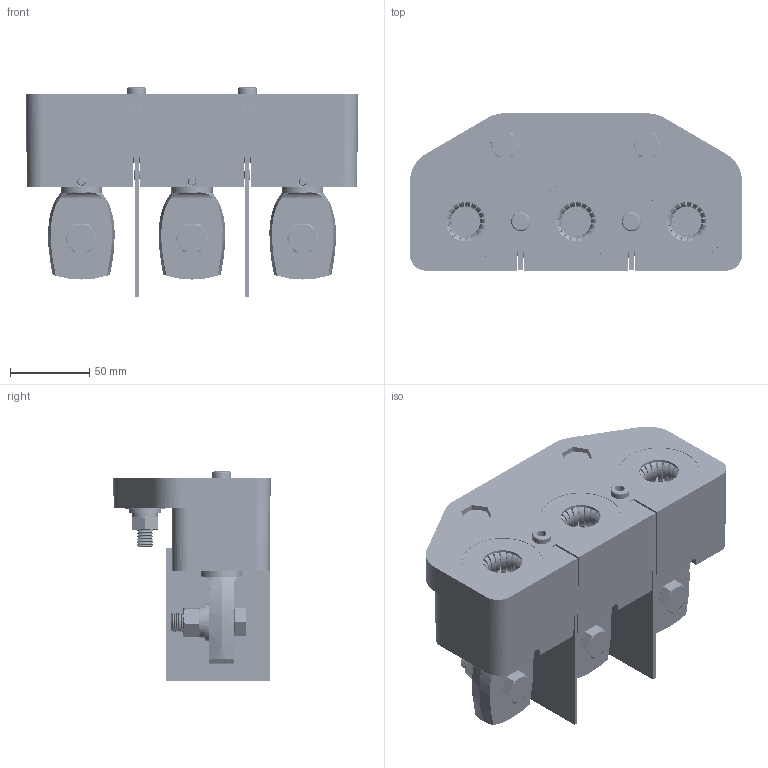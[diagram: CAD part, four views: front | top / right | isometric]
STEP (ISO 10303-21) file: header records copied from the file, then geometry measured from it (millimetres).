
FILE_DESCRIPTION (( 'STEP AP214' ), '1' );
FILE_NAME ('M1-800插入式胶木（新）装配体.STEP', '2024-11-11T08:13:02', ( '' ), ( '' ), 'SwSTEP 2.0', 'SolidWorks 2016', '' );
FILE_SCHEMA (( 'AUTOMOTIVE_DESIGN' ));
Length unit declared in the file: millimetre
Products named in the file (19): spring pin slotted heavy duty1 gb_GB_PARALLEL_PINS_TYPE6 5X35; 路說え; 肣國郪璃; hex nuts 1-fine pitch-grades ab gb_GB_FASTENER_NUT_SNAB1XY M12X1.5-S; M1-800插入式胶木（新）装配体; plain washers--product grade c gb_GB_FASTENER_WASHER_SMWC 10; 誘杶; hex nuts 1-fine pitch-grades ab gb_GB_FASTENER_NUT_SNAB1XY M10X1.25-S; hexagon head bolts-full thread gb_GB_FASTENER_BOLT_STBAB A M10X35-S; spring lock washers--normal type gb_GB_FASTENER_WASHER_SW 12; hexagon head bolts-full thread gb_GB_FASTENER_BOLT_STBAB A M12X40-S; circlips for shaft--type a large gb_GB_CONNECTING_PIECE_RING_RRA 26; 800狟脣 陔唳 2024.7.30; 800狟脣遠嶺銅; 肣國; plain washers-n series-grade a gb_GB_FASTENER_WASHER_PWNA 12; 嘐隅喘謫; M1-800插入式胶木（新）; spring lock washers--normal type gb_GB_FASTENER_WASHER_SW 10
Assembly tree (59 placements, depth 3):
  M1-800插入式胶木（新）装配体
    M1-800插入式胶木（新）
    800狟脣 陔唳 2024.7.30  x3
    spring pin slotted heavy duty1 gb_GB_PARALLEL_PINS_TYPE6 5X35  x3
    circlips for shaft--type a large gb_GB_CONNECTING_PIECE_RING_RRA 26  x3
    肣國郪璃  x3
      嘐隅喘謫
      肣國
      800狟脣遠嶺銅
    hexagon head bolts-full thread gb_GB_FASTENER_BOLT_STBAB A M12X40-S  x3
    plain washers-n series-grade a gb_GB_FASTENER_WASHER_PWNA 12  x3
    spring lock washers--normal type gb_GB_FASTENER_WASHER_SW 12  x3
    hex nuts 1-fine pitch-grades ab gb_GB_FASTENER_NUT_SNAB1XY M12X1.5-S  x3
    hexagon head bolts-full thread gb_GB_FASTENER_BOLT_STBAB A M10X35-S  x2
    plain washers--product grade c gb_GB_FASTENER_WASHER_SMWC 10  x2
    spring lock washers--normal type gb_GB_FASTENER_WASHER_SW 10  x2
    hex nuts 1-fine pitch-grades ab gb_GB_FASTENER_NUT_SNAB1XY M10X1.25-S  x2
    路說え  x2
    誘杶  x3
Bounding box: 210 x 99.5 x 132.25 mm (x, y, z)
Volume: 868298.1 mm3; surface area: 321459 mm2
Topology: 98 solids, 98 shells, 3561 faces, 8567 edges, 5202 vertices
Faces by surface type: cylinder 1738, cone 1005, plane 633, torus 142, bspline 43
Entity records: 57423 total; most frequent: CARTESIAN_POINT 31380, DIRECTION 5693, ORIENTED_EDGE 5032, EDGE_CURVE 2516, AXIS2_PLACEMENT_3D 2208, VERTEX_POINT 1480, LINE 1277, VECTOR 1277
